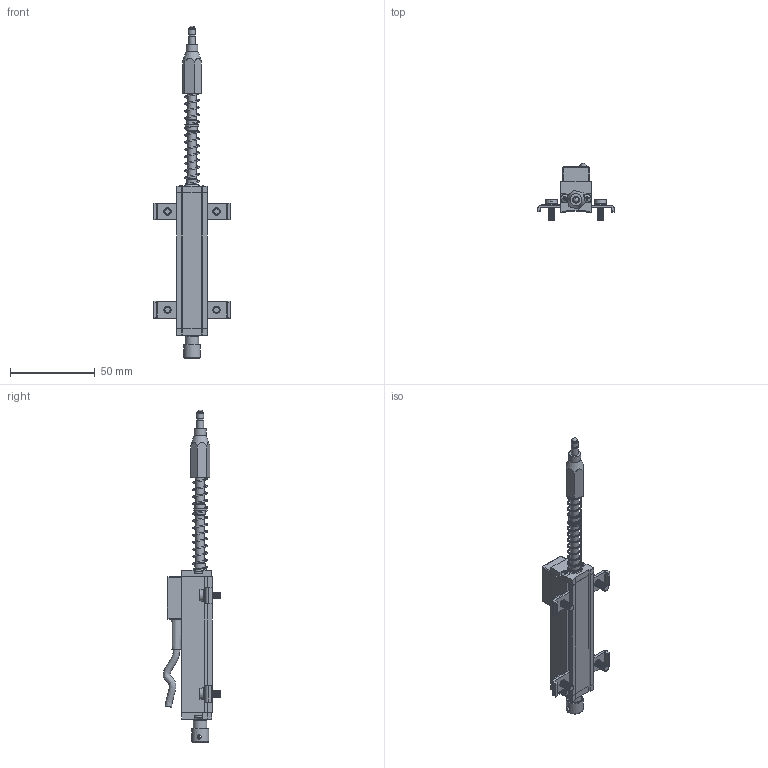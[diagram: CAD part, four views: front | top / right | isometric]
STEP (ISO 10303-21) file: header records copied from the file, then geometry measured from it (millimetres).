
FILE_DESCRIPTION (( 'STEP AP214' ), '1' );
FILE_NAME ('CR18 3-Pole.STEP', '2019-04-24T13:21:19', ( '' ), ( '' ), 'SwSTEP 2.0', 'SolidWorks 2017', '' );
FILE_SCHEMA (( 'AUTOMOTIVE_DESIGN' ));
Length unit declared in the file: millimetre
Products named in the file (22): TES045X; PRE040X; BUS015X; MIM892X_ISO 1207 - M4 x 10 --- 10S; BUS023X; ALB061X; PUN001X; STA029X; TES053X; PAS000X; MIM600X; PTAS000X; CUS046X; MIM510X_DIN 6905-3.6-FSt; PY-2-F-050; MIM797X_ISO 7046-1 - M2 x 10 - Z --- 10S; TAS000X_Assemblato; BUS022X; CR18 3-Pole; PMI-SLIM cavoX; MIM828X_ISO 7045 - M2.5 x 8 - Z --- 8S; Molla PY compressa MIM401X_Posizione Lavoro
Assembly tree (35 placements, depth 4):
  CR18 3-Pole
    PY-2-F-050
      MIM828X_ISO 7045 - M2.5 x 8 - Z --- 8S  x4
      TES053X
      STA029X  x4
      MIM510X_DIN 6905-3.6-FSt  x4
      MIM892X_ISO 1207 - M4 x 10 --- 10S  x4
      BUS015X
      PTAS000X
        TAS000X_Assemblato
        MIM600X
      BUS022X  x2
      BUS023X
      CUS046X
      ALB061X
      PUN001X
      Molla PY compressa MIM401X_Posizione Lavoro  x2
      TES045X
      PRE040X
      MIM797X_ISO 7046-1 - M2 x 10 - Z --- 10S
      PMI-SLIM cavoX
      PAS000X
Bounding box: 45 x 34.02 x 195.99 mm (x, y, z)
Volume: 37535.6 mm3; surface area: 23479.1 mm2
Topology: 33 solids, 33 shells, 987 faces, 2164 edges, 1259 vertices
Faces by surface type: cone 360, plane 329, cylinder 249, torus 37, sphere 9, bspline 3
Full cylindrical faces by diameter (mm): 1.6 x1, 2 x24, 2.1 x1, 2.3 x2, 2.5 x71, 2.6 x1, 2.7 x4, 3.2 x3, 3.8 x3, 4 x62, 4.2 x1, 4.3 x4, 5 x5, 5.1 x3, 6 x3, 6.3 x4, 7 x2, 7.8 x3, 8 x1, 8.5 x1, 10 x1
Entity records: 14849 total; most frequent: CARTESIAN_POINT 3916, DIRECTION 2227, ORIENTED_EDGE 1656, AXIS2_PLACEMENT_3D 931, EDGE_CURVE 828, EDGE_LOOP 776, VERTEX_POINT 628, FACE_OUTER_BOUND 600
